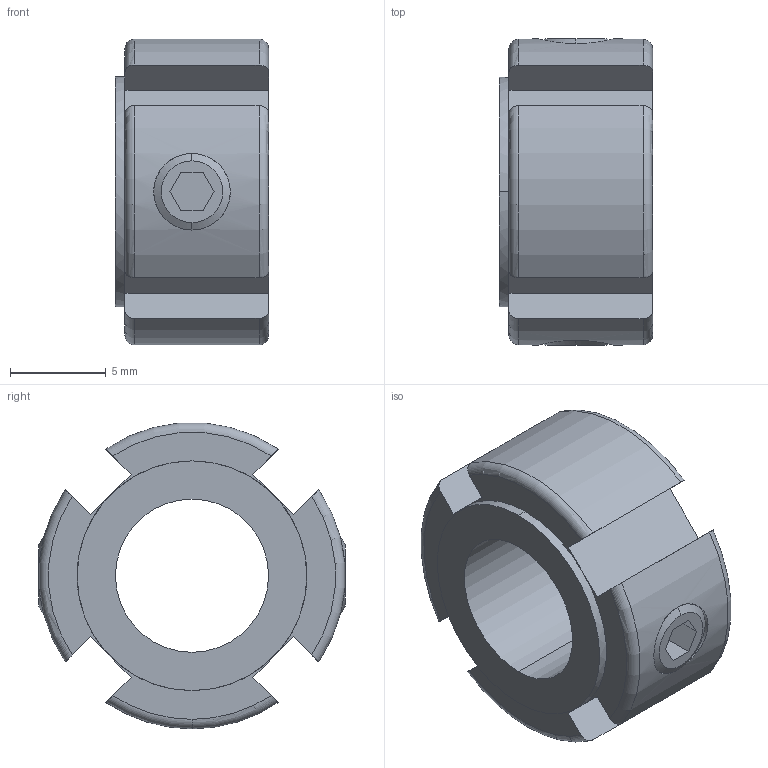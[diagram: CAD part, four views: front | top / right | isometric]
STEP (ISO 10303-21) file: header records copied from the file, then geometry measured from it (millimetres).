
FILE_DESCRIPTION (( 'STEP AP214' ), '1' );
FILE_NAME ('ZN8.STEP', '2020-02-27T23:49:23', ( '' ), ( '' ), 'SwSTEP 2.0', 'SolidWorks 2015', '' );
FILE_SCHEMA (( 'AUTOMOTIVE_DESIGN' ));
Length unit declared in the file: millimetre
Products named in the file (1): ZN8
Bounding box: 8 x 16 x 15.97 mm (x, y, z)
Volume: 972.8 mm3; surface area: 969.7 mm2
Topology: 1 solids, 1 shells, 67 faces, 167 edges, 106 vertices
Faces by surface type: plane 34, cylinder 19, torus 10, cone 4
Entity records: 2884 total; most frequent: CARTESIAN_POINT 519, ORIENTED_EDGE 334, DIRECTION 327, EDGE_CURVE 167, AXIS2_PLACEMENT_3D 118, VERTEX_POINT 106, VECTOR 91, LINE 91
